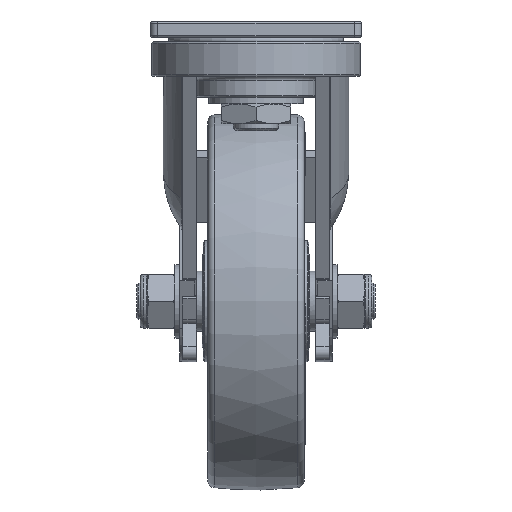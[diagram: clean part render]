
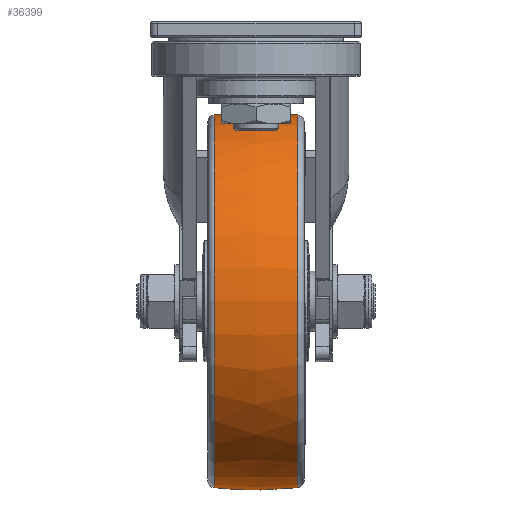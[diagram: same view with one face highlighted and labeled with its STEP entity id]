
A CAD part, left-side view. The second image highlights one B-rep face of the part: STEP entity #36399.
In plain terms, the highlighted free-form (B-spline) face has degree [2, 2] with [3, 9] control points.
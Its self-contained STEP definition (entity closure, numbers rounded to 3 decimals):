
#472=(
BOUNDED_CURVE()
B_SPLINE_CURVE(2,(#52149,#52150,#52151),.UNSPECIFIED.,.F.,.F.)
B_SPLINE_CURVE_WITH_KNOTS((3,3),(-0.11,0.11),
 .UNSPECIFIED.)
CURVE()
GEOMETRIC_REPRESENTATION_ITEM()
RATIONAL_B_SPLINE_CURVE((1.,0.994,1.))
REPRESENTATION_ITEM('')
);
#547=(
BOUNDED_SURFACE()
B_SPLINE_SURFACE(2,2,((#52118,#52119,#52120,#52121,#52122,#52123,#52124,
#52125,#52126),(#52127,#52128,#52129,#52130,#52131,#52132,#52133,#52134,
#52135),(#52136,#52137,#52138,#52139,#52140,#52141,#52142,#52143,#52144)),
 .UNSPECIFIED.,.F.,.T.,.F.)
B_SPLINE_SURFACE_WITH_KNOTS((3,3),(3,2,2,2,3),(-0.11,0.11),
(-3.142,-1.571,0.,1.571,3.142),
 .UNSPECIFIED.)
GEOMETRIC_REPRESENTATION_ITEM()
RATIONAL_B_SPLINE_SURFACE(((1.,0.707,1.,0.707,1.,
0.707,1.,0.707,1.),(0.994,0.703,
0.994,0.703,0.994,0.703,
0.994,0.703,0.994),(1.,0.707,
1.,0.707,1.,0.707,1.,0.707,1.)))
REPRESENTATION_ITEM('')
SURFACE()
);
#10248=FACE_OUTER_BOUND('',#12432,.T.);
#12432=EDGE_LOOP('',(#26239,#26240,#26241,#26242,#26243,#26244));
#14359=CIRCLE('',#38385,12.348);
#14360=CIRCLE('',#38386,12.348);
#14362=CIRCLE('',#38388,12.348);
#14363=CIRCLE('',#38389,12.348);
#15984=VERTEX_POINT('',#52112);
#15985=VERTEX_POINT('',#52113);
#15987=VERTEX_POINT('',#52145);
#15988=VERTEX_POINT('',#52146);
#19888=EDGE_CURVE('',#15984,#15985,#14359,.T.);
#19889=EDGE_CURVE('',#15985,#15984,#14360,.T.);
#19891=EDGE_CURVE('',#15987,#15988,#14362,.T.);
#19892=EDGE_CURVE('',#15988,#15987,#14363,.T.);
#19893=EDGE_CURVE('',#15988,#15985,#472,.T.);
#26239=ORIENTED_EDGE('',*,*,#19891,.F.);
#26240=ORIENTED_EDGE('',*,*,#19892,.F.);
#26241=ORIENTED_EDGE('',*,*,#19893,.T.);
#26242=ORIENTED_EDGE('',*,*,#19889,.T.);
#26243=ORIENTED_EDGE('',*,*,#19888,.T.);
#26244=ORIENTED_EDGE('',*,*,#19893,.F.);
#36399=ADVANCED_FACE('',(#10248),#547,.F.);
#38385=AXIS2_PLACEMENT_3D('',#52114,#41756,#41757);
#38386=AXIS2_PLACEMENT_3D('',#52115,#41758,#41759);
#38388=AXIS2_PLACEMENT_3D('',#52147,#41762,#41763);
#38389=AXIS2_PLACEMENT_3D('',#52148,#41764,#41765);
#41756=DIRECTION('center_axis',(0.,-1.,0.));
#41757=DIRECTION('ref_axis',(0.,0.,
1.));
#41758=DIRECTION('center_axis',(0.,-1.,0.));
#41759=DIRECTION('ref_axis',(0.,0.,
1.));
#41762=DIRECTION('center_axis',(0.,-1.,0.));
#41763=DIRECTION('ref_axis',(0.,0.,
1.));
#41764=DIRECTION('center_axis',(0.,-1.,0.));
#41765=DIRECTION('ref_axis',(0.,0.,
1.));
#52112=CARTESIAN_POINT('',(-4.848,2.755,-18.5));
#52113=CARTESIAN_POINT('',(7.5,2.755,-30.848));
#52114=CARTESIAN_POINT('Origin',(7.5,2.755,-18.5));
#52115=CARTESIAN_POINT('Origin',(7.5,2.755,-18.5));
#52118=CARTESIAN_POINT('Ctrl Pts',(7.5,2.755,-30.848));
#52119=CARTESIAN_POINT('Ctrl Pts',(19.848,2.755,-30.848));
#52120=CARTESIAN_POINT('Ctrl Pts',(19.848,2.755,-18.5));
#52121=CARTESIAN_POINT('Ctrl Pts',(19.848,2.755,-6.152));
#52122=CARTESIAN_POINT('Ctrl Pts',(7.5,2.755,-6.152));
#52123=CARTESIAN_POINT('Ctrl Pts',(-4.848,2.755,-6.152));
#52124=CARTESIAN_POINT('Ctrl Pts',(-4.848,2.755,-18.5));
#52125=CARTESIAN_POINT('Ctrl Pts',(-4.848,2.755,-30.848));
#52126=CARTESIAN_POINT('Ctrl Pts',(7.5,2.755,-30.848));
#52127=CARTESIAN_POINT('Ctrl Pts',(7.5,0.,
-31.153));
#52128=CARTESIAN_POINT('Ctrl Pts',(20.153,0.,
-31.153));
#52129=CARTESIAN_POINT('Ctrl Pts',(20.153,0.,
-18.5));
#52130=CARTESIAN_POINT('Ctrl Pts',(20.153,0.,
-5.847));
#52131=CARTESIAN_POINT('Ctrl Pts',(7.5,0.,
-5.847));
#52132=CARTESIAN_POINT('Ctrl Pts',(-5.153,0.,
-5.847));
#52133=CARTESIAN_POINT('Ctrl Pts',(-5.153,0.,
-18.5));
#52134=CARTESIAN_POINT('Ctrl Pts',(-5.153,0.,
-31.153));
#52135=CARTESIAN_POINT('Ctrl Pts',(7.5,0.,
-31.153));
#52136=CARTESIAN_POINT('Ctrl Pts',(7.5,-2.755,-30.848));
#52137=CARTESIAN_POINT('Ctrl Pts',(19.848,-2.755,-30.848));
#52138=CARTESIAN_POINT('Ctrl Pts',(19.848,-2.755,-18.5));
#52139=CARTESIAN_POINT('Ctrl Pts',(19.848,-2.755,-6.152));
#52140=CARTESIAN_POINT('Ctrl Pts',(7.5,-2.755,-6.152));
#52141=CARTESIAN_POINT('Ctrl Pts',(-4.848,-2.755,
-6.152));
#52142=CARTESIAN_POINT('Ctrl Pts',(-4.848,-2.755,
-18.5));
#52143=CARTESIAN_POINT('Ctrl Pts',(-4.848,-2.755,
-30.848));
#52144=CARTESIAN_POINT('Ctrl Pts',(7.5,-2.755,-30.848));
#52145=CARTESIAN_POINT('',(-4.848,-2.755,-18.5));
#52146=CARTESIAN_POINT('',(7.5,-2.755,-30.848));
#52147=CARTESIAN_POINT('Origin',(7.5,-2.755,-18.5));
#52148=CARTESIAN_POINT('Origin',(7.5,-2.755,-18.5));
#52149=CARTESIAN_POINT('Ctrl Pts',(7.5,-2.755,-30.848));
#52150=CARTESIAN_POINT('Ctrl Pts',(7.5,0.,
-31.153));
#52151=CARTESIAN_POINT('Ctrl Pts',(7.5,2.755,-30.848));
